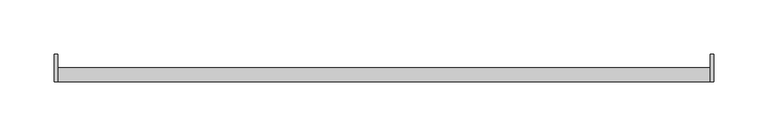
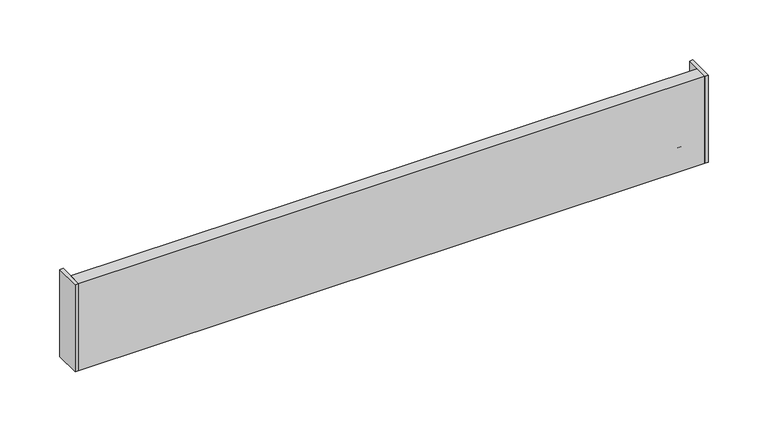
"""IFC4 building model written with IfcOpenShell, lengths in millimetres: furniture geometry."""

from ifc_helpers import new_model, si_unit, frame, origin, place, context, project, spatial, polyline, outline, extrude, source, transform, mapped, element, save


def furniture_2ec89b50(model_context):
    return source(origin(), model_context, "Body", "SweptSolid", [
        extrude(outline(polyline([(-301.625, 12.6999996), (-301.625, -12.7000004), (-304.8, -12.7000004), (-304.8, 12.6999996), (-301.625, 12.6999996)])), frame((0.0, 0.0, 1023.51332), z_axis=(0.0, 0.0, 1.0), x_axis=(1.0, 0.0, 0.0)), (0.0, 0.0, 1.0), 88.9),
        extrude(outline(polyline([(304.8, 12.6999996), (304.8, -12.7000004), (301.625, -12.7000004), (301.625, 12.6999996), (304.8, 12.6999996)])), frame((0.0, 0.0, 1023.51332), z_axis=(0.0, 0.0, 1.0), x_axis=(1.0, 0.0, 0.0)), (0.0, 0.0, 1.0), 88.9),
        extrude(outline(polyline([(301.625, 0.0), (301.625, -12.7000004), (-301.625, -12.7000004), (-301.625, 0.0), (301.625, 0.0)])), frame((0.0, 0.0, 1023.51332), z_axis=(0.0, 0.0, 1.0), x_axis=(1.0, 0.0, 0.0)), (0.0, 0.0, 1.0), 88.9),
        extrude(outline(polyline([(-12.7000004, 1099.7133166), (-12.7000004, 1112.41332), (0.0, 1112.41332), (0.0, 1023.51332), (-12.7000004, 1023.51332), (-12.7000004, 1048.9133166), (-3.1750002, 1048.9133166), (-3.1750002, 1061.6133166), (-12.7000004, 1061.6133166), (-12.7000004, 1087.0133166), (-3.1750002, 1087.0133166), (-3.1750002, 1099.7133166), (-12.7000004, 1099.7133166)])), frame((-301.625, 0.0, 0.0), z_axis=(1.0, 0.0, 0.0), x_axis=(0.0, 1.0, 0.0)), (0.0, 0.0, 1.0), 603.25),
        extrude(outline(polyline([(-12.7000004, 1112.41332), (0.0, 1112.41332), (0.0, 1099.7133166), (12.6999996, 1099.7133166), (12.6999996, 1036.213317), (0.0, 1036.213317), (0.0, 1023.51332), (-12.7000004, 1023.51332), (-12.7000004, 1112.41332)])), frame((-304.8, 0.0, 0.0), z_axis=(1.0, 0.0, 0.0), x_axis=(0.0, 1.0, 0.0)), (0.0, 0.0, 1.0), 3.175),
        extrude(outline(polyline([(-12.7000004, 1112.41332), (0.0, 1112.41332), (0.0, 1099.7133166), (12.6999996, 1099.7133166), (12.6999996, 1036.213317), (0.0, 1036.213317), (0.0, 1023.51332), (-12.7000004, 1023.51332), (-12.7000004, 1112.41332)])), frame((301.625, 0.0, 0.0), z_axis=(1.0, 0.0, 0.0), x_axis=(0.0, 1.0, 0.0)), (0.0, 0.0, 1.0), 3.175),
    ])


if __name__ == "__main__":
    model = new_model("IFC4")
    model_context = context("Model", 3, world=origin())
    ifc_project = project(units=[si_unit("LENGTHUNIT", "METRE", prefix="MILLI")], contexts=[model_context])
    site = spatial("IfcSite", under=ifc_project)
    building = spatial("IfcBuilding", under=site)
    placement = place(None, origin())
    furniture_shape = furniture_2ec89b50(model_context)
    element("IfcFurniture", 1, ObjectType="HermanMiller_ActionOffice_A3610_ToolBar : 4\"H x 24\"W", at=placement, inside=building, context=model_context, shape_type="MappedRepresentation", body=[
        mapped(furniture_shape, transform((0.0, 0.0, 0.0), x_axis=(1.0, 0.0, 0.0), y_axis=(0.0, 1.0, 0.0), z_axis=(0.0, 0.0, 1.0))),
    ])
    save(model, "model.ifc")
